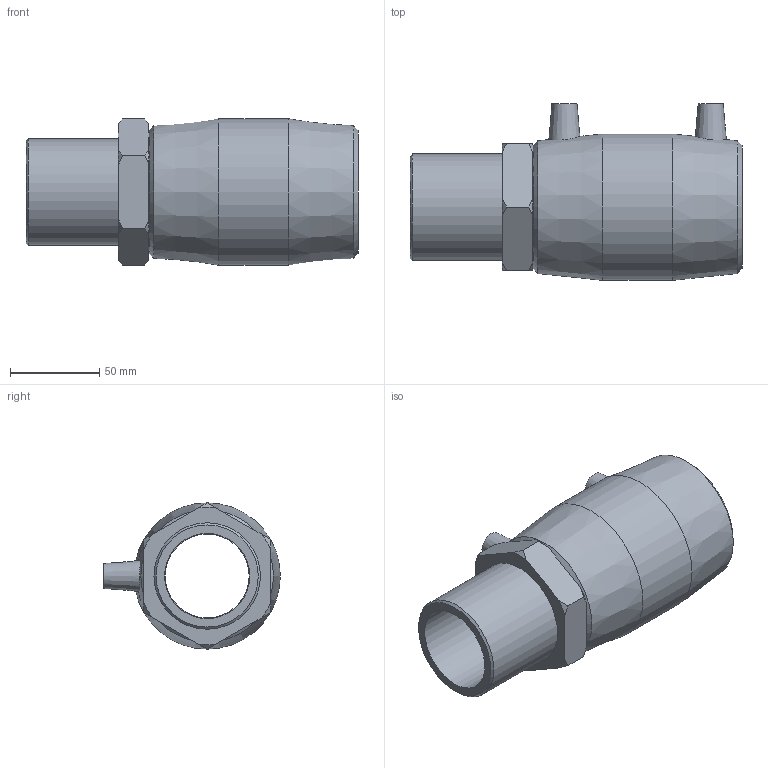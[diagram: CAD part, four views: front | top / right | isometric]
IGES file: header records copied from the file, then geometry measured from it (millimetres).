
Global section: file name: 492104063020N.ipt; native system: Autodesk Inventor 2015; preprocessor: unknown; author: KIM; date: 20200202.122324; units: millimetre
Bounding box: 186 x 99 x 82 mm (x, y, z)
Volume: 394779.1 mm3; surface area: 87142 mm2
Topology: 1 solids, 2 shells, 54 faces, 129 edges, 88 vertices
Faces by surface type: plane 21, cone 19, revolution 8, cylinder 6
Full cylindrical faces by diameter (mm): 4 x2, 59.614 x1, 63 x2, 82 x1
